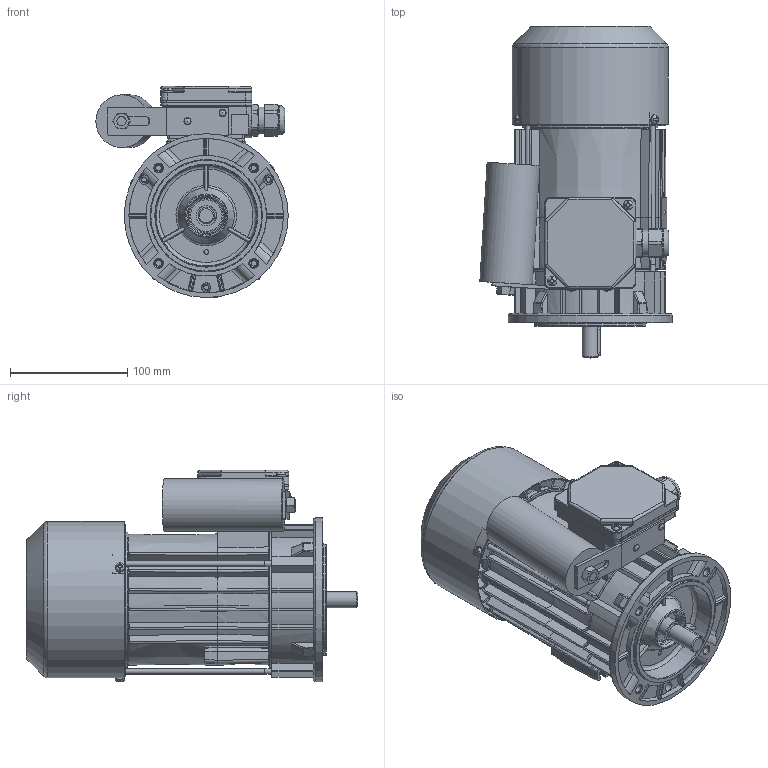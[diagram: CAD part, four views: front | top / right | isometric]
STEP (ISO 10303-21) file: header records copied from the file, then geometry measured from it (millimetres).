
FILE_DESCRIPTION(/* description */ ('Unknown'),/* implementation_level */ '2;1');
FILE_NAME(/* name */ '3SSIEK71-4B1',/* time_stamp */ '2024-06-19T08:07:54+02:00',/* author */ ('Unknown'),/* organization */ ('Unknown'),/* preprocessor_version */ 'ST-DEVELOPER v16.7',/* originating_system */ 'Solid Edge',/* authorisation */ 'Unknown');
FILE_SCHEMA (('AUTOMOTIVE_DESIGN {1 0 10303 214 3 1 1}'));
Products named in the file (1): Czêœæ3
Bounding box: 164.3 x 283.48 x 180.57 mm (x, y, z)
Volume: 902810.3 mm3; surface area: 461593.8 mm2
Topology: 2 solids, 2 shells, 2596 faces, 7034 edges, 4475 vertices
Faces by surface type: plane 1064, cylinder 726, bspline 377, torus 211, cone 184, sphere 34
Full cylindrical faces by diameter (mm): 2 x2, 2.4 x2, 3 x1, 3.7 x4, 3.8 x4, 4 x5, 4.134 x3, 4.3 x2, 4.4 x3, 4.5 x2, 4.8 x2, 5 x5, 5.1 x3, 5.5 x3, 6 x2, 6.5 x1, 6.8 x4, 7 x1, 8 x7, 13.599 x1, 13.999 x1, 15.898 x1, 16.098 x1, 16.498 x1, 16.998 x2, 17.4 x2, 21.998 x2, 22.3 x1, 22.498 x1, 22.648 x1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
Entity records: 107298 total; most frequent: CARTESIAN_POINT 28295, ORIENTED_EDGE 13270, DIRECTION 11741, EDGE_CURVE 6635, AXIS2_PLACEMENT_3D 4497, VERTEX_POINT 4336, EDGE_LOOP 3047, FACE_BOUND 3047
